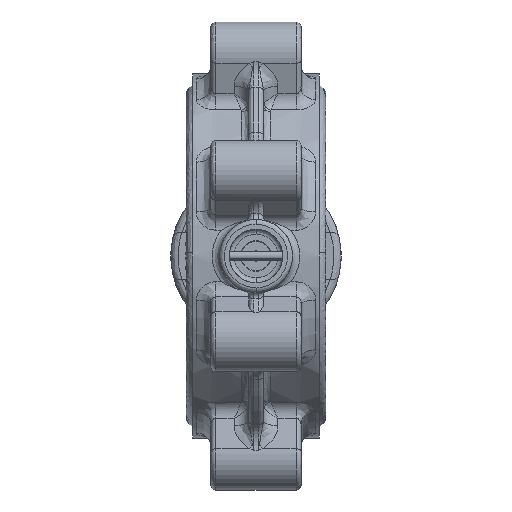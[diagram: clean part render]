
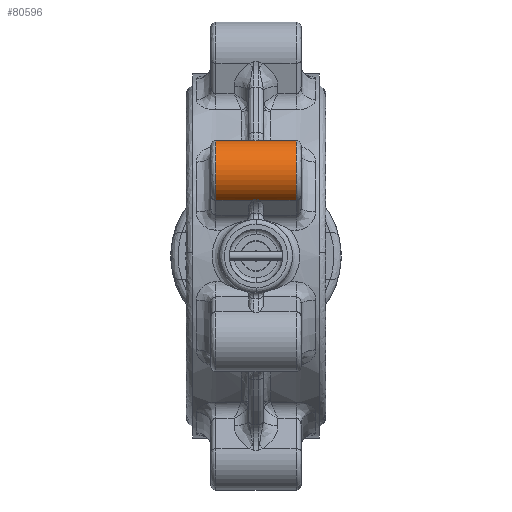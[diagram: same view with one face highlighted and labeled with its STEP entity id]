
A CAD part, front view. The second image highlights one B-rep face of the part: STEP entity #80596.
In plain terms, the highlighted cylindrical face has radius 13 mm (diameter 26 mm), a partial arc.
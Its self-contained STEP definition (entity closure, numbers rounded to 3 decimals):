
#719 = LINE ( 'NONE', #49744, #71254 ) ;
#2818 = DIRECTION ( 'NONE',  ( 0., 0., 1. ) ) ;
#2830 = CARTESIAN_POINT ( 'NONE',  ( 1.342, -89.161, 22.915 ) ) ;
#6051 = VECTOR ( 'NONE', #28842, 1000. ) ;
#6211 = EDGE_CURVE ( 'NONE', #29628, #94210, #59534, .T. ) ;
#7176 = VERTEX_POINT ( 'NONE', #56838 ) ;
#8760 = CIRCLE ( 'NONE', #12563, 13. ) ;
#9468 = CARTESIAN_POINT ( 'NONE',  ( 18.5, -83.149, 34.442 ) ) ;
#9660 = ORIENTED_EDGE ( 'NONE', *, *, #6211, .T. ) ;
#12563 = AXIS2_PLACEMENT_3D ( 'NONE', #73012, #29349, #87613 ) ;
#14334 = CIRCLE ( 'NONE', #85476, 13. ) ;
#14744 = VECTOR ( 'NONE', #59623, 1000. ) ;
#16762 = CARTESIAN_POINT ( 'NONE',  ( 1., -89.666, 23.193 ) ) ;
#17399 = CARTESIAN_POINT ( 'NONE',  ( -16.5, -83.149, 47.442 ) ) ;
#17997 = CARTESIAN_POINT ( 'NONE',  ( -1.342, -89.161, 22.915 ) ) ;
#19576 = CARTESIAN_POINT ( 'NONE',  ( 1.342, -89.161, 22.915 ) ) ;
#20408 = DIRECTION ( 'NONE',  ( 1., 0., 0. ) ) ;
#20978 = EDGE_LOOP ( 'NONE', ( #86946, #9660, #74552, #93361, #30615, #29270, #86219, #31483 ) ) ;
#21288 = VERTEX_POINT ( 'NONE', #86068 ) ;
#24360 = EDGE_CURVE ( 'NONE', #56493, #21288, #41415, .T. ) ;
#24416 = CARTESIAN_POINT ( 'NONE',  ( 1., -89.666, 23.193 ) ) ;
#24711 = EDGE_CURVE ( 'NONE', #56493, #7176, #719, .T. ) ;
#26815 = CYLINDRICAL_SURFACE ( 'NONE', #44986, 13. ) ;
#28842 = DIRECTION ( 'NONE',  ( -1., 0., 0. ) ) ;
#29270 = ORIENTED_EDGE ( 'NONE', *, *, #60596, .T. ) ;
#29349 = DIRECTION ( 'NONE',  ( -1., 0., 0. ) ) ;
#29628 = VERTEX_POINT ( 'NONE', #62340 ) ;
#30545 = VERTEX_POINT ( 'NONE', #87710 ) ;
#30615 = ORIENTED_EDGE ( 'NONE', *, *, #68096, .T. ) ;
#30953 = VERTEX_POINT ( 'NONE', #17997 ) ;
#31483 = ORIENTED_EDGE ( 'NONE', *, *, #24711, .T. ) ;
#34014 = EDGE_CURVE ( 'NONE', #94210, #30545, #14334, .T. ) ;
#41415 = B_SPLINE_CURVE_WITH_KNOTS ( 'NONE', 3,
 ( #2830, #60699, #46653, #24416 ),
 .UNSPECIFIED., .F., .F.,
 ( 4, 4 ),
 ( 0., 1. ),
 .UNSPECIFIED. ) ;
#42678 = DIRECTION ( 'NONE',  ( 0., 0., 1. ) ) ;
#42984 = CARTESIAN_POINT ( 'NONE',  ( -16.5, -83.149, 34.442 ) ) ;
#43365 = DIRECTION ( 'NONE',  ( 1., 0., 0. ) ) ;
#44777 = CARTESIAN_POINT ( 'NONE',  ( -1.228, -89.332, 23.004 ) ) ;
#44986 = AXIS2_PLACEMENT_3D ( 'NONE', #9468, #61642, #2818 ) ;
#46653 = CARTESIAN_POINT ( 'NONE',  ( 1.1, -89.522, 23.109 ) ) ;
#48232 = EDGE_CURVE ( 'NONE', #30545, #30953, #48874, .T. ) ;
#48874 = LINE ( 'NONE', #78745, #14744 ) ;
#49573 = FACE_OUTER_BOUND ( 'NONE', #20978, .T. ) ;
#49727 = VERTEX_POINT ( 'NONE', #55730 ) ;
#49744 = CARTESIAN_POINT ( 'NONE',  ( 18.5, -89.161, 22.915 ) ) ;
#55730 = CARTESIAN_POINT ( 'NONE',  ( -1., -89.666, 23.193 ) ) ;
#56493 = VERTEX_POINT ( 'NONE', #19576 ) ;
#56838 = CARTESIAN_POINT ( 'NONE',  ( 16.5, -89.161, 22.915 ) ) ;
#59130 = CARTESIAN_POINT ( 'NONE',  ( -1.114, -89.5, 23.097 ) ) ;
#59534 = LINE ( 'NONE', #65170, #6051 ) ;
#59623 = DIRECTION ( 'NONE',  ( 1., 0., 0. ) ) ;
#60363 = CARTESIAN_POINT ( 'NONE',  ( -1., -89.666, 23.193 ) ) ;
#60596 = EDGE_CURVE ( 'NONE', #49727, #21288, #73117, .T. ) ;
#60699 = CARTESIAN_POINT ( 'NONE',  ( 1.214, -89.354, 23.016 ) ) ;
#61642 = DIRECTION ( 'NONE',  ( -1., 0., 0. ) ) ;
#62340 = CARTESIAN_POINT ( 'NONE',  ( 16.5, -83.149, 47.442 ) ) ;
#65170 = CARTESIAN_POINT ( 'NONE',  ( 18.5, -83.149, 47.442 ) ) ;
#68096 = EDGE_CURVE ( 'NONE', #30953, #49727, #83419, .T. ) ;
#71254 = VECTOR ( 'NONE', #43365, 1000. ) ;
#73012 = CARTESIAN_POINT ( 'NONE',  ( 16.5, -83.149, 34.442 ) ) ;
#73117 = B_SPLINE_CURVE_WITH_KNOTS ( 'NONE', 3,
 ( #60363, #89616, #88655, #16762 ),
 .UNSPECIFIED., .F., .F.,
 ( 4, 4 ),
 ( 0., 1. ),
 .UNSPECIFIED. ) ;
#74065 = CARTESIAN_POINT ( 'NONE',  ( -1.342, -89.161, 22.915 ) ) ;
#74552 = ORIENTED_EDGE ( 'NONE', *, *, #34014, .T. ) ;
#77214 = EDGE_CURVE ( 'NONE', #7176, #29628, #8760, .T. ) ;
#78745 = CARTESIAN_POINT ( 'NONE',  ( 18.5, -89.161, 22.915 ) ) ;
#80596 = ADVANCED_FACE ( 'NONE', ( #49573 ), #26815, .T. ) ;
#83419 = B_SPLINE_CURVE_WITH_KNOTS ( 'NONE', 3,
 ( #74065, #44777, #59130, #88052 ),
 .UNSPECIFIED., .F., .F.,
 ( 4, 4 ),
 ( 0., 1. ),
 .UNSPECIFIED. ) ;
#85476 = AXIS2_PLACEMENT_3D ( 'NONE', #42984, #20408, #42678 ) ;
#86068 = CARTESIAN_POINT ( 'NONE',  ( 1., -89.666, 23.193 ) ) ;
#86219 = ORIENTED_EDGE ( 'NONE', *, *, #24360, .F. ) ;
#86946 = ORIENTED_EDGE ( 'NONE', *, *, #77214, .T. ) ;
#87613 = DIRECTION ( 'NONE',  ( 0., 0., 1. ) ) ;
#87710 = CARTESIAN_POINT ( 'NONE',  ( -16.5, -89.161, 22.915 ) ) ;
#88052 = CARTESIAN_POINT ( 'NONE',  ( -1., -89.666, 23.193 ) ) ;
#88655 = CARTESIAN_POINT ( 'NONE',  ( 0.333, -89.66, 23.189 ) ) ;
#89616 = CARTESIAN_POINT ( 'NONE',  ( -0.333, -89.66, 23.189 ) ) ;
#93361 = ORIENTED_EDGE ( 'NONE', *, *, #48232, .T. ) ;
#94210 = VERTEX_POINT ( 'NONE', #17399 ) ;
